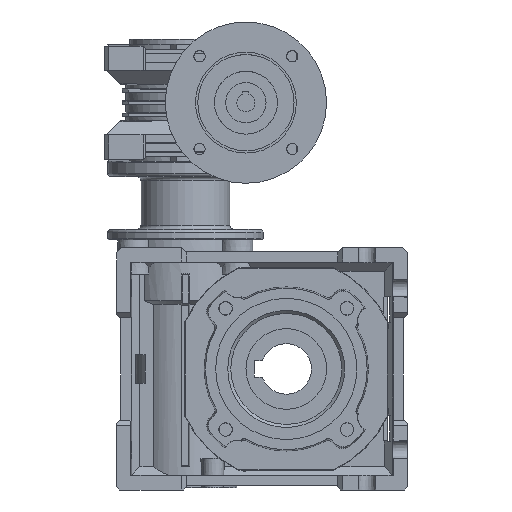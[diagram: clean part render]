
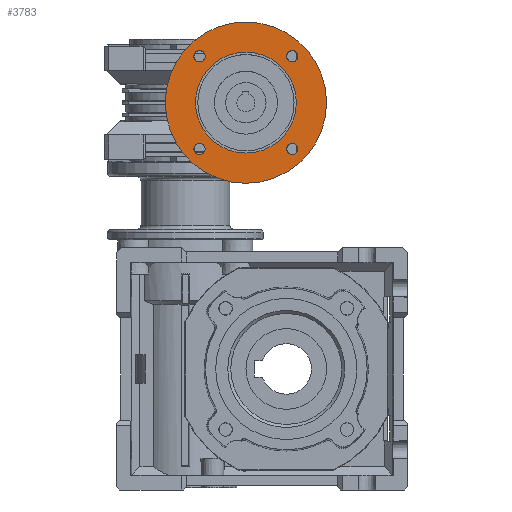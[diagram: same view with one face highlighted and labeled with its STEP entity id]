
A CAD part, left-side view. The second image highlights one B-rep face of the part: STEP entity #3783.
In plain terms, the highlighted planar face has unit normal (-1, 0, 0).
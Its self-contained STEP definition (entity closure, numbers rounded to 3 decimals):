
#3783 = ADVANCED_FACE( 'NONE', ( #7759, #7760, #7761, #7762, #7763, #7764 ), #7765, .T. );
#7759 = FACE_OUTER_BOUND( '', #12312, .T. );
#7760 = FACE_BOUND( '', #12313, .T. );
#7761 = FACE_BOUND( '', #12314, .T. );
#7762 = FACE_BOUND( '', #12315, .T. );
#7763 = FACE_BOUND( '', #12316, .T. );
#7764 = FACE_BOUND( '', #12317, .T. );
#7765 = PLANE( '', #12318 );
#12312 = EDGE_LOOP( '', ( #23962 ) );
#12313 = EDGE_LOOP( '', ( #23963 ) );
#12314 = EDGE_LOOP( '', ( #23964 ) );
#12315 = EDGE_LOOP( '', ( #23965 ) );
#12316 = EDGE_LOOP( '', ( #23966 ) );
#12317 = EDGE_LOOP( '', ( #23967 ) );
#12318 = AXIS2_PLACEMENT_3D( '', #23968, #23969, #23970 );
#23962 = ORIENTED_EDGE( '', *, *, #28526, .T. );
#23963 = ORIENTED_EDGE( '', *, *, #27681, .T. );
#23964 = ORIENTED_EDGE( '', *, *, #25004, .T. );
#23965 = ORIENTED_EDGE( '', *, *, #25068, .T. );
#23966 = ORIENTED_EDGE( '', *, *, #27729, .T. );
#23967 = ORIENTED_EDGE( '', *, *, #25522, .T. );
#23968 = CARTESIAN_POINT( '', ( -55., 11.616, 68. ) );
#23969 = DIRECTION( '', ( -1., 0., 0. ) );
#23970 = DIRECTION( '', ( 0., 0., 1. ) );
#25004 = EDGE_CURVE( 'NONE', #30109, #30109, #30110, .F. );
#25068 = EDGE_CURVE( 'NONE', #30222, #30222, #30223, .F. );
#25522 = EDGE_CURVE( 'NONE', #31027, #31027, #31028, .F. );
#27681 = EDGE_CURVE( 'NONE', #34404, #34404, #34405, .F. );
#27729 = EDGE_CURVE( 'NONE', #34469, #34469, #34470, .F. );
#28526 = EDGE_CURVE( 'NONE', #35523, #35523, #35524, .T. );
#30109 = VERTEX_POINT( '', #37688 );
#30110 = CIRCLE( '', #37689, 2.796 );
#30222 = VERTEX_POINT( '', #37863 );
#30223 = CIRCLE( '', #37864, 2.796 );
#31027 = VERTEX_POINT( '', #39217 );
#31028 = CIRCLE( '', #39218, 25. );
#34404 = VERTEX_POINT( '', #45758 );
#34405 = CIRCLE( '', #45759, 2.796 );
#34469 = VERTEX_POINT( '', #45959 );
#34470 = CIRCLE( '', #45960, 2.796 );
#35523 = VERTEX_POINT( '', #47981 );
#35524 = CIRCLE( '', #47982, 39.974 );
#37688 = CARTESIAN_POINT( '', ( -55., -52.981, 47.815 ) );
#37689 = AXIS2_PLACEMENT_3D( '', #49860, #49861, #49862 );
#37863 = CARTESIAN_POINT( '', ( -55., -7.019, 47.815 ) );
#37864 = AXIS2_PLACEMENT_3D( '', #49936, #49937, #49938 );
#39217 = CARTESIAN_POINT( '', ( -55., -30., 93. ) );
#39218 = AXIS2_PLACEMENT_3D( '', #50418, #50419, #50420 );
#45758 = CARTESIAN_POINT( '', ( -55., -7.019, 93.777 ) );
#45759 = AXIS2_PLACEMENT_3D( '', #52517, #52518, #52519 );
#45959 = CARTESIAN_POINT( '', ( -55., -52.981, 93.777 ) );
#45960 = AXIS2_PLACEMENT_3D( '', #52552, #52553, #52554 );
#47981 = CARTESIAN_POINT( '', ( -55., -30., 107.974 ) );
#47982 = AXIS2_PLACEMENT_3D( '', #53312, #53313, #53314 );
#49860 = CARTESIAN_POINT( '', ( -55., -52.981, 45.019 ) );
#49861 = DIRECTION( '', ( -1., 0., 0. ) );
#49862 = DIRECTION( '', ( 0., 0., 1. ) );
#49936 = CARTESIAN_POINT( '', ( -55., -7.019, 45.019 ) );
#49937 = DIRECTION( '', ( -1., 0., 0. ) );
#49938 = DIRECTION( '', ( 0., 0., 1. ) );
#50418 = CARTESIAN_POINT( '', ( -55., -30., 68. ) );
#50419 = DIRECTION( '', ( -1., 0., 0. ) );
#50420 = DIRECTION( '', ( 0., 0., 1. ) );
#52517 = CARTESIAN_POINT( '', ( -55., -7.019, 90.981 ) );
#52518 = DIRECTION( '', ( -1., 0., 0. ) );
#52519 = DIRECTION( '', ( 0., 0., 1. ) );
#52552 = CARTESIAN_POINT( '', ( -55., -52.981, 90.981 ) );
#52553 = DIRECTION( '', ( -1., 0., 0. ) );
#52554 = DIRECTION( '', ( 0., 0., 1. ) );
#53312 = CARTESIAN_POINT( '', ( -55., -30., 68. ) );
#53313 = DIRECTION( '', ( -1., 0., 0. ) );
#53314 = DIRECTION( '', ( 0., 0., 1. ) );
